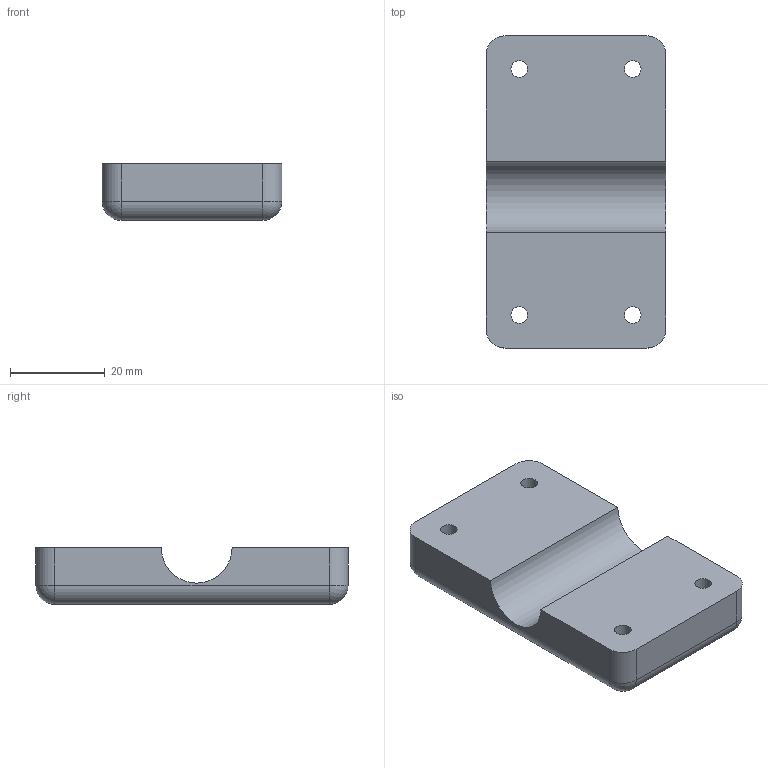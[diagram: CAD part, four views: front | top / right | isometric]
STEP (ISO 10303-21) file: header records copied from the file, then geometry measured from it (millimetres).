
FILE_DESCRIPTION(/* description */ (''),/* implementation_level */ '2;1');
FILE_NAME(/* name */ 'Gantry Clamp Left x1 v1.step',/* time_stamp */ '2023-03-23T06:39:18-06:00',/* author */ (''),/* organization */ (''),/* preprocessor_version */ 'ST-DEVELOPER v19.2',/* originating_system */ 'Autodesk Translation Framework v11.17.0.187',/* authorisation */ '');
FILE_SCHEMA (('AUTOMOTIVE_DESIGN { 1 0 10303 214 3 1 1 }'));
Length unit declared in the file: millimetre
Products named in the file (2): Gantry Clamp Left x1; L Gantry 2
Assembly tree (1 placements, depth 2):
  Gantry Clamp Left x1
    L Gantry 2
Bounding box: 38 x 66 x 12 mm (x, y, z)
Volume: 25291.2 mm3; surface area: 7712 mm2
Topology: 1 solids, 1 shells, 36 faces, 82 edges, 48 vertices
Faces by surface type: cylinder 17, plane 15, sphere 4
Full cylindrical faces by diameter (mm): 3.5 x4, 6 x4
Entity records: 1088 total; most frequent: DIRECTION 198, CARTESIAN_POINT 179, ORIENTED_EDGE 164, EDGE_CURVE 82, AXIS2_PLACEMENT_3D 79, VERTEX_POINT 48, EDGE_LOOP 44, LINE 40
